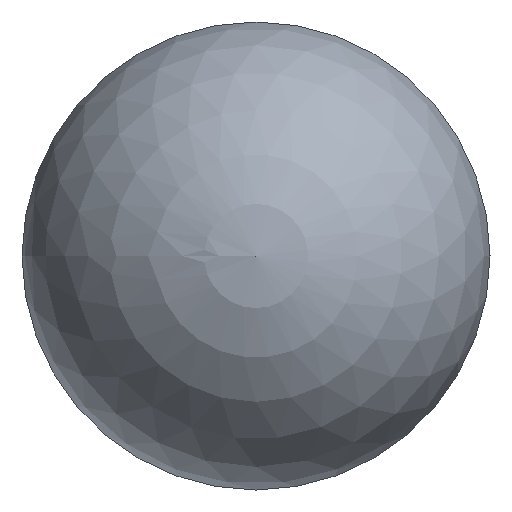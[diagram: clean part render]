
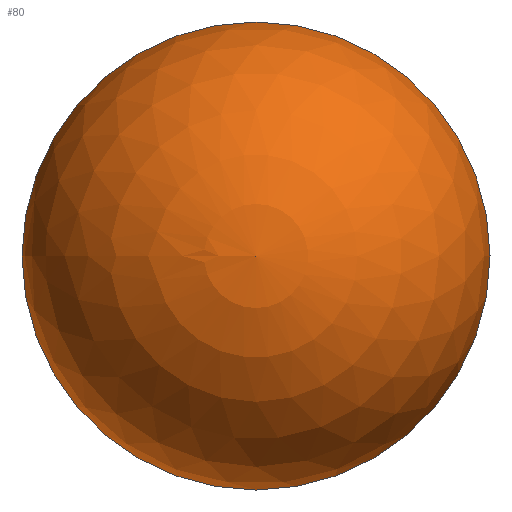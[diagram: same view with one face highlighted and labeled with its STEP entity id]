
A CAD part, left-side view. The second image highlights one B-rep face of the part: STEP entity #80.
In plain terms, the highlighted spherical face has radius 1.1 mm.
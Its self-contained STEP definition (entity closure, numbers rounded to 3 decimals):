
#80 = ADVANCED_FACE( '', ( #98, #99 ), #100, .T. );
#98 = FACE_BOUND( '', #118, .T. );
#99 = FACE_OUTER_BOUND( '', #119, .T. );
#100 = SPHERICAL_SURFACE( '', #120, 1.1 );
#118 = VERTEX_LOOP( '', #148 );
#119 = EDGE_LOOP( '', ( #149 ) );
#120 = AXIS2_PLACEMENT_3D( '', #150, #151, #152 );
#148 = VERTEX_POINT( '', #163 );
#149 = ORIENTED_EDGE( '', *, *, #162, .F. );
#150 = CARTESIAN_POINT( '', ( 1.1, 0., 0. ) );
#151 = DIRECTION( '', ( 1., 0., 0. ) );
#152 = DIRECTION( '', ( 0., 1., 0. ) );
#162 = EDGE_CURVE( '', #174, #174, #175, .T. );
#163 = CARTESIAN_POINT( '', ( 0., 0., 0. ) );
#174 = VERTEX_POINT( '', #186 );
#175 = CIRCLE( '', #187, 1.1 );
#186 = CARTESIAN_POINT( '', ( 1.1, 0., -1.1 ) );
#187 = AXIS2_PLACEMENT_3D( '', #203, #204, #205 );
#203 = CARTESIAN_POINT( '', ( 1.1, 0., 0. ) );
#204 = DIRECTION( '', ( 1., 0., 0. ) );
#205 = DIRECTION( '', ( 0., 0., -1. ) );
